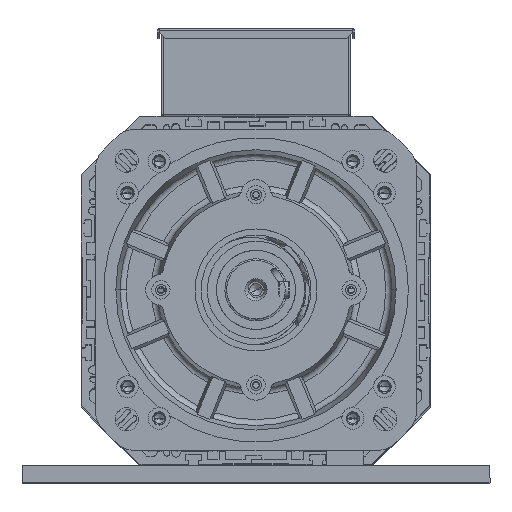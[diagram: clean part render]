
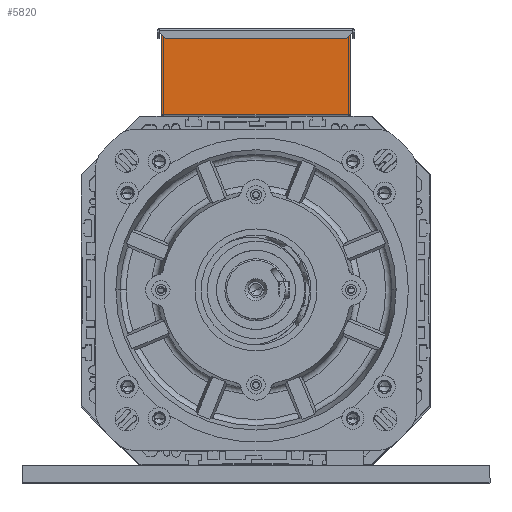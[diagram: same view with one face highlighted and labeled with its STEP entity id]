
A CAD part, top view. The second image highlights one B-rep face of the part: STEP entity #5820.
In plain terms, the highlighted planar face has unit normal (0, 0, 1) as drawn and (1, 0, 0) by its records, which use the part's own axes.
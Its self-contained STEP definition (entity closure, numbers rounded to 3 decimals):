
#104 = ORIENTED_EDGE ( 'NONE', *, *, #49536, .T. ) ;
#4067 = ORIENTED_EDGE ( 'NONE', *, *, #96131, .F. ) ;
#4629 = CARTESIAN_POINT ( 'NONE',  ( 100., 75.8, 0.2 ) ) ;
#5820 = ADVANCED_FACE ( 'NONE', ( #75399 ), #9769, .F. ) ;
#7662 = DIRECTION ( 'NONE',  ( 0., -1., 0. ) ) ;
#9769 = PLANE ( 'NONE',  #47094 ) ;
#9827 = DIRECTION ( 'NONE',  ( 0., 0., -1. ) ) ;
#13947 = DIRECTION ( 'NONE',  ( 0., -1., 0. ) ) ;
#14220 = EDGE_CURVE ( 'NONE', #100444, #37710, #65506, .T. ) ;
#15980 = ORIENTED_EDGE ( 'NONE', *, *, #97576, .F. ) ;
#16399 = VECTOR ( 'NONE', #102671, 1000. ) ;
#18345 = CARTESIAN_POINT ( 'NONE',  ( 100., -77.5, 0. ) ) ;
#22960 = CARTESIAN_POINT ( 'NONE',  ( 100., -77.5, 0.2 ) ) ;
#24547 = ORIENTED_EDGE ( 'NONE', *, *, #46695, .F. ) ;
#25807 = DIRECTION ( 'NONE',  ( 0., 0., 1. ) ) ;
#26243 = EDGE_CURVE ( 'NONE', #33730, #105668, #97932, .T. ) ;
#27302 = CARTESIAN_POINT ( 'NONE',  ( 100., -77.5, 65.8 ) ) ;
#33730 = VERTEX_POINT ( 'NONE', #27302 ) ;
#37710 = VERTEX_POINT ( 'NONE', #100597 ) ;
#40239 = CARTESIAN_POINT ( 'NONE',  ( 100., -77.5, 0.2 ) ) ;
#43382 = VERTEX_POINT ( 'NONE', #58757 ) ;
#46501 = CARTESIAN_POINT ( 'NONE',  ( 100., 77.5, 0.2 ) ) ;
#46695 = EDGE_CURVE ( 'NONE', #43382, #105668, #63514, .T. ) ;
#47094 = AXIS2_PLACEMENT_3D ( 'NONE', #66343, #98411, #25807 ) ;
#49536 = EDGE_CURVE ( 'NONE', #37710, #33730, #87093, .T. ) ;
#55513 = DIRECTION ( 'NONE',  ( 0., -1., 0. ) ) ;
#55559 = VECTOR ( 'NONE', #98610, 1000. ) ;
#58757 = CARTESIAN_POINT ( 'NONE',  ( 100., -75.8, 0.2 ) ) ;
#63125 = EDGE_LOOP ( 'NONE', ( #104, #77508, #24547, #4067, #15980, #105488 ) ) ;
#63514 = LINE ( 'NONE', #22960, #68233 ) ;
#64973 = CARTESIAN_POINT ( 'NONE',  ( 100., 77.5, 0. ) ) ;
#65344 = VECTOR ( 'NONE', #13947, 1000. ) ;
#65506 = LINE ( 'NONE', #64973, #55559 ) ;
#66343 = CARTESIAN_POINT ( 'NONE',  ( 100., 0., 0. ) ) ;
#68233 = VECTOR ( 'NONE', #55513, 1000. ) ;
#72121 = CARTESIAN_POINT ( 'NONE',  ( 100., 77.5, 65.8 ) ) ;
#72757 = LINE ( 'NONE', #40239, #82915 ) ;
#75399 = FACE_OUTER_BOUND ( 'NONE', #63125, .T. ) ;
#77508 = ORIENTED_EDGE ( 'NONE', *, *, #26243, .T. ) ;
#78612 = CARTESIAN_POINT ( 'NONE',  ( 100., -77.5, 0.2 ) ) ;
#82915 = VECTOR ( 'NONE', #7662, 1000. ) ;
#83999 = VECTOR ( 'NONE', #9827, 1000. ) ;
#86603 = VERTEX_POINT ( 'NONE', #4629 ) ;
#87093 = LINE ( 'NONE', #72121, #65344 ) ;
#88220 = LINE ( 'NONE', #78612, #16399 ) ;
#96131 = EDGE_CURVE ( 'NONE', #86603, #43382, #88220, .T. ) ;
#97576 = EDGE_CURVE ( 'NONE', #100444, #86603, #72757, .T. ) ;
#97932 = LINE ( 'NONE', #18345, #83999 ) ;
#98411 = DIRECTION ( 'NONE',  ( -1., 0., 0. ) ) ;
#98610 = DIRECTION ( 'NONE',  ( 0., 0., 1. ) ) ;
#98973 = CARTESIAN_POINT ( 'NONE',  ( 100., -77.5, 0.2 ) ) ;
#100444 = VERTEX_POINT ( 'NONE', #46501 ) ;
#100597 = CARTESIAN_POINT ( 'NONE',  ( 100., 77.5, 65.8 ) ) ;
#102671 = DIRECTION ( 'NONE',  ( 0., -1., 0. ) ) ;
#105488 = ORIENTED_EDGE ( 'NONE', *, *, #14220, .T. ) ;
#105668 = VERTEX_POINT ( 'NONE', #98973 ) ;
